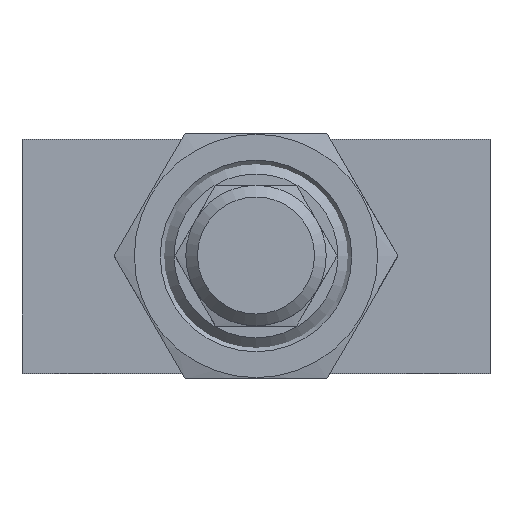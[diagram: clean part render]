
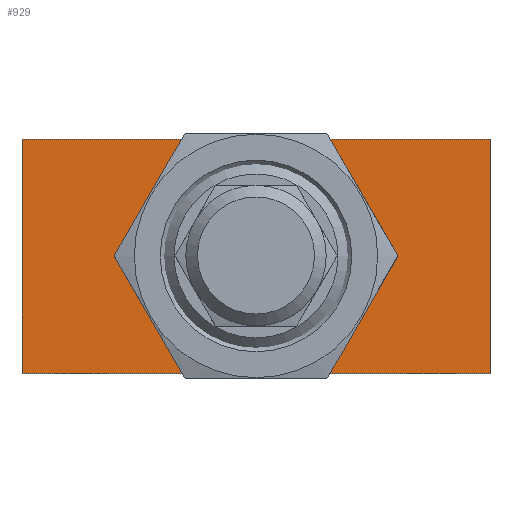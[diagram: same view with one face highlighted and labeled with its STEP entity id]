
A CAD part, top view. The second image highlights one B-rep face of the part: STEP entity #929.
In plain terms, the highlighted planar face has unit normal (0, 0, 1).
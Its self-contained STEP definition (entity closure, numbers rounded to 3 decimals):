
#63=FACE_BOUND('',#304,.T.);
#64=FACE_BOUND('',#305,.T.);
#100=LINE('',#1483,#132);
#104=LINE('',#1490,#136);
#107=LINE('',#1496,#139);
#109=LINE('',#1499,#141);
#132=VECTOR('',#1220,20.);
#136=VECTOR('',#1226,40.);
#139=VECTOR('',#1231,20.);
#141=VECTOR('',#1235,40.);
#170=PLANE('',#1032);
#304=EDGE_LOOP('',(#729));
#305=EDGE_LOOP('',(#730,#731,#732,#733));
#356=CIRCLE('',#977,9.5);
#443=VERTEX_POINT('',#1395);
#470=VERTEX_POINT('',#1480);
#471=VERTEX_POINT('',#1482);
#473=VERTEX_POINT('',#1488);
#475=VERTEX_POINT('',#1494);
#531=EDGE_CURVE('',#443,#443,#356,.T.);
#561=EDGE_CURVE('',#470,#471,#100,.T.);
#565=EDGE_CURVE('',#473,#470,#104,.T.);
#568=EDGE_CURVE('',#475,#473,#107,.T.);
#570=EDGE_CURVE('',#471,#475,#109,.T.);
#729=ORIENTED_EDGE('',*,*,#531,.T.);
#730=ORIENTED_EDGE('',*,*,#570,.F.);
#731=ORIENTED_EDGE('',*,*,#561,.F.);
#732=ORIENTED_EDGE('',*,*,#565,.F.);
#733=ORIENTED_EDGE('',*,*,#568,.F.);
#929=ADVANCED_FACE('',(#63,#64),#170,.T.);
#977=AXIS2_PLACEMENT_3D('',#1396,#1112,#1113);
#1032=AXIS2_PLACEMENT_3D('',#1500,#1236,#1237);
#1112=DIRECTION('center_axis',(0.,0.,-1.));
#1113=DIRECTION('ref_axis',(-1.,0.,0.));
#1220=DIRECTION('',(0.,-1.,0.));
#1226=DIRECTION('',(1.,0.,0.));
#1231=DIRECTION('',(0.,1.,0.));
#1235=DIRECTION('',(-1.,0.,0.));
#1236=DIRECTION('center_axis',(0.,0.,1.));
#1237=DIRECTION('ref_axis',(1.,0.,0.));
#1395=CARTESIAN_POINT('',(9.5,0.,0.));
#1396=CARTESIAN_POINT('Origin',(0.,0.,0.));
#1480=CARTESIAN_POINT('',(20.,10.,0.));
#1482=CARTESIAN_POINT('',(20.,-10.,0.));
#1483=CARTESIAN_POINT('',(20.,10.,0.));
#1488=CARTESIAN_POINT('',(-20.,10.,0.));
#1490=CARTESIAN_POINT('',(-20.,10.,0.));
#1494=CARTESIAN_POINT('',(-20.,-10.,0.));
#1496=CARTESIAN_POINT('',(-20.,-10.,0.));
#1499=CARTESIAN_POINT('',(20.,-10.,0.));
#1500=CARTESIAN_POINT('Origin',(0.,0.,
0.));
